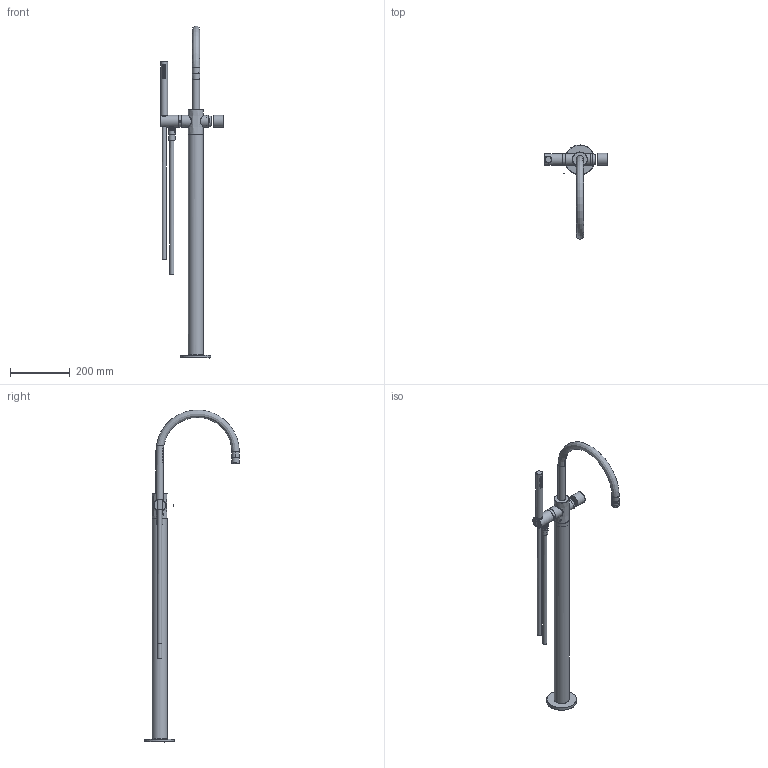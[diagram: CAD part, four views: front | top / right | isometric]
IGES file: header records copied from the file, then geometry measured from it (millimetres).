
Start section: Data from Parasolid IGES Translator 22.0.50, Copyright(c) 2006 Siemens P LM Software. All Rights Reserved.
Global section: file name: noorth-taps-H 111,5 D 31,8 W 20,9_5846.igs; native system: By Siemens PLM Incorporated; preprocessor: XPlus GENERIC/IGES 22.0.50; author: Noname; organization: Noname; date: 20260208.164211; units: metre
Bounding box: 211.02 x 317.52 x 1115 mm (x, y, z)
Volume: 1891755.5 mm3; surface area: 363738.9 mm2
Topology: 15 solids, 15 shells, 459 faces, 2736 edges, 2576 vertices
Faces by surface type: extrusion 120, revolution 106, plane 88, cylinder 65, cone 46, bspline 29, torus 5
Full cylindrical faces by diameter (mm): 2 x30, 3.242 x1, 4.2 x1, 6 x1, 12 x1, 14 x2, 14.2 x2, 16 x4, 18.5 x2, 19.2 x2, 20.1 x1, 22 x1, 23 x1, 23.6 x1, 25 x1, 30 x1, 37 x1, 37.8 x2, 37.9 x2, 39 x2, 40 x5, 50 x1
